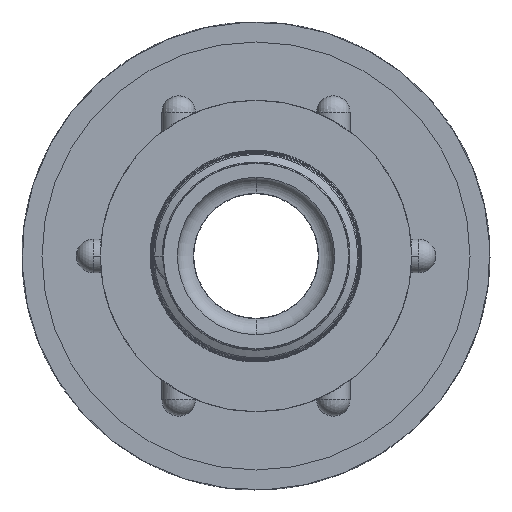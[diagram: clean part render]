
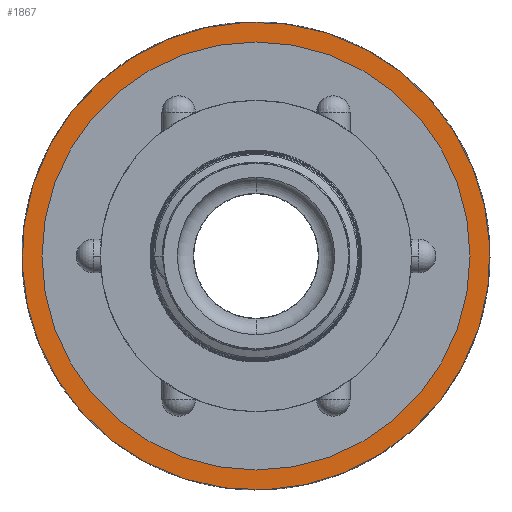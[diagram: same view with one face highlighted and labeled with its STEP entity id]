
A CAD part, left-side view. The second image highlights one B-rep face of the part: STEP entity #1867.
In plain terms, the highlighted planar face has unit normal (-1, 0, 0).
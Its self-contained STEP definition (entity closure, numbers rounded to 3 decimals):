
#279 = EDGE_LOOP ( 'NONE', ( #3136, #3137 ) ) ;
#284 = EDGE_LOOP ( 'NONE', ( #3134, #3135 ) ) ;
#1400 = EDGE_CURVE ( 'NONE', #4422, #4423, #28238, .T. ) ;
#1422 = EDGE_CURVE ( 'NONE', #4423, #4422, #28247, .T. ) ;
#1807 = EDGE_CURVE ( 'NONE', #4374, #4373, #8507, .T. ) ;
#1867 = ADVANCED_FACE ( 'NONE', ( #9727, #9728 ), #9729, .F. ) ;
#3134 = ORIENTED_EDGE ( 'NONE', *, *, #1422, .F. ) ;
#3135 = ORIENTED_EDGE ( 'NONE', *, *, #1400, .F. ) ;
#3136 = ORIENTED_EDGE ( 'NONE', *, *, #13656, .T. ) ;
#3137 = ORIENTED_EDGE ( 'NONE', *, *, #1807, .T. ) ;
#4373 = VERTEX_POINT ( 'NONE', #19889 ) ;
#4374 = VERTEX_POINT ( 'NONE', #19890 ) ;
#4422 = VERTEX_POINT ( 'NONE', #19938 ) ;
#4423 = VERTEX_POINT ( 'NONE', #17824 ) ;
#5700 = CARTESIAN_POINT ( 'NONE',  ( 0., 0., 0. ) ) ;
#5701 = DIRECTION ( 'NONE',  ( -1., 0., 0. ) ) ;
#5702 = DIRECTION ( 'NONE',  ( 0., 0., 1. ) ) ;
#5897 = CARTESIAN_POINT ( 'NONE',  ( 0., 0., 0. ) ) ;
#5898 = DIRECTION ( 'NONE',  ( -1., 0., 0. ) ) ;
#5899 = DIRECTION ( 'NONE',  ( 0., 0., 1. ) ) ;
#8507 = CIRCLE ( 'NONE', #8510, 29.3 ) ;
#8510 = AXIS2_PLACEMENT_3D ( 'NONE', #8997, #8998, #8999 ) ;
#8594 = AXIS2_PLACEMENT_3D ( 'NONE', #9719, #9731, #9732 ) ;
#8997 = CARTESIAN_POINT ( 'NONE',  ( 0., 0., 0. ) ) ;
#8998 = DIRECTION ( 'NONE',  ( -1., 0., 0. ) ) ;
#8999 = DIRECTION ( 'NONE',  ( 0., 0., 1. ) ) ;
#9719 = CARTESIAN_POINT ( 'NONE',  ( 0., 0., -25. ) ) ;
#9727 = FACE_BOUND ( 'NONE', #284, .T. ) ;
#9728 = FACE_OUTER_BOUND ( 'NONE', #279, .T. ) ;
#9729 = PLANE ( 'NONE',  #8594 ) ;
#9731 = DIRECTION ( 'NONE',  ( 1., 0., 0. ) ) ;
#9732 = DIRECTION ( 'NONE',  ( 0., 0., -1. ) ) ;
#13656 = EDGE_CURVE ( 'NONE', #4373, #4374, #22919, .T. ) ;
#17824 = CARTESIAN_POINT ( 'NONE',  ( 0., 0., 25. ) ) ;
#19889 = CARTESIAN_POINT ( 'NONE',  ( 0., 0., 29.3 ) ) ;
#19890 = CARTESIAN_POINT ( 'NONE',  ( 0., 0., -29.3 ) ) ;
#19938 = CARTESIAN_POINT ( 'NONE',  ( 0., 0., -25. ) ) ;
#22919 = CIRCLE ( 'NONE', #22921, 29.3 ) ;
#22921 = AXIS2_PLACEMENT_3D ( 'NONE', #27626, #27627, #27628 ) ;
#27626 = CARTESIAN_POINT ( 'NONE',  ( 0., 0., 0. ) ) ;
#27627 = DIRECTION ( 'NONE',  ( -1., 0., 0. ) ) ;
#27628 = DIRECTION ( 'NONE',  ( 0., 0., 1. ) ) ;
#28238 = CIRCLE ( 'NONE', #28239, 25. ) ;
#28239 = AXIS2_PLACEMENT_3D ( 'NONE', #5700, #5701, #5702 ) ;
#28247 = CIRCLE ( 'NONE', #28248, 25. ) ;
#28248 = AXIS2_PLACEMENT_3D ( 'NONE', #5897, #5898, #5899 ) ;
